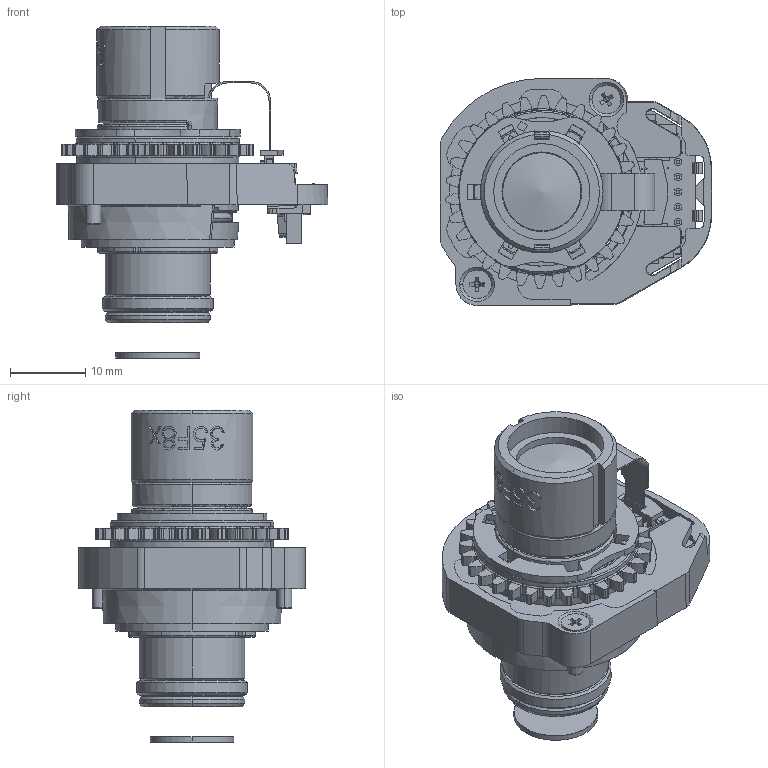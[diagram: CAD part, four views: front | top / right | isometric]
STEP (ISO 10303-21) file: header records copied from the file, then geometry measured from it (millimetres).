
FILE_DESCRIPTION (( 'STEP AP214' ), '1' );
FILE_NAME ('HSLL_35F8.STEP', '2021-02-10T13:49:46', ( '' ), ( '' ), 'SwSTEP 2.0', 'SolidWorks 2021', '' );
FILE_SCHEMA (( 'AUTOMOTIVE_DESIGN' ));
Length unit declared in the file: millimetre
Products named in the file (45): 136-843-00_04_single core; 4000003623_cover_35mm F8_Standard; 372-10366R; stiffener_flexcable_Standard; 136-420-XX; 134-674-03_134-674-03; 203-10120R_24 mm lens; 372-10353R_Standard; UDFN-4L_Tempsensor_Standard; 114-10139R; 136-685-00_02; SQT-105-01-L-S; Torch_35mmF8_v18-DFM_lenses_Cover; 372-10014R; 372-10367R; 4000003623_Barrel _35mm_F8_Standard; idf37_rb_1000000322_12102018_Standard; 136-844-00_01; 196-10202R_DIN EN ISO 7046-1 - M2 x 8 - Z - 8N; 177-10028R; 4000003623_1000003257_with LL; 173-10007R_Standard; 135-979-01_ConnectingElement; 4000003624_1000003302 with LL; 372-10368R; Defeature^136-453-XX; stiffener_flexcable_temp_Standard; 372-10350R_Standard; HSLL_35F8; 1000000348; 136-841-00_01; 525590652_Standard; Part1^136-453-XX; 1000000449; 372-10369R_Standard; 132-672-00-0-03; 1000000364; 135-885-00_00; 136-857-00_01-Produkt (Name); 203-10120R_flexcable_for24mm_24 mm lens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
Assembly tree (45 placements, depth 6):
  HSLL_35F8
    372-10350R_Standard
    4000003624_1000003302 with LL
      4000003623_1000003257_with LL
        4000003623_Barrel _35mm_F8_Standard
          4000003623_Barrel _35mm_F8_Standard
          Torch_35mmF8_v18-DFM_lenses_Barrel
        4000003623_Cover _35mm_F8_Standard
          4000003623_cover_35mm F8_Standard
          Torch_35mmF8_v18-DFM_lenses_Cover
      114-10139R
        136-420-XX
        134-674-03_134-674-03
          135-885-00_00
            136-685-00_02
          132-672-00-0-03
        Defeature^136-453-XX
        136-857-00_01-Produkt (Name)
          136-843-00_04_single core
          136-841-00_01
          136-844-00_01
          135-979-01_ConnectingElement
        Part1^136-453-XX
      203-10120R_24 mm lens
        203-10120R_flexcable_for24mm_24 mm lens
        UDFN-4L_Tempsensor_Standard
        stiffener_flexcable_Standard
        stiffener_flexcable_temp_Standard
      372-10366R
      372-10014R
      177-10028R
      177-10205R_Standard
      1000000364
      1000000348
    372-10353R_Standard
    372-10367R
    1000000449
    idf_10097_rar
      SQT-105-01-L-S
      525590652_Standard
      idf37_rb_1000000322_12102018_Standard
    372-10368R
    173-10007R_Standard
    372-10369R_Standard
    196-10202R_DIN EN ISO 7046-1 - M2 x 8 - Z - 8N  x2
Bounding box: 36.1 x 30.2 x 44.16 mm (x, y, z)
Volume: 10079.8 mm3; surface area: 19531.5 mm2
Topology: 103 solids, 103 shells, 3386 faces, 8875 edges, 5715 vertices
Faces by surface type: plane 1726, cylinder 870, bspline 359, cone 201, torus 199, sphere 31
Entity records: 125491 total; most frequent: CARTESIAN_POINT 35306, ORIENTED_EDGE 17480, DIRECTION 16337, EDGE_CURVE 8740, AXIS2_PLACEMENT_3D 5785, VERTEX_POINT 5648, LINE 4767, VECTOR 4767
